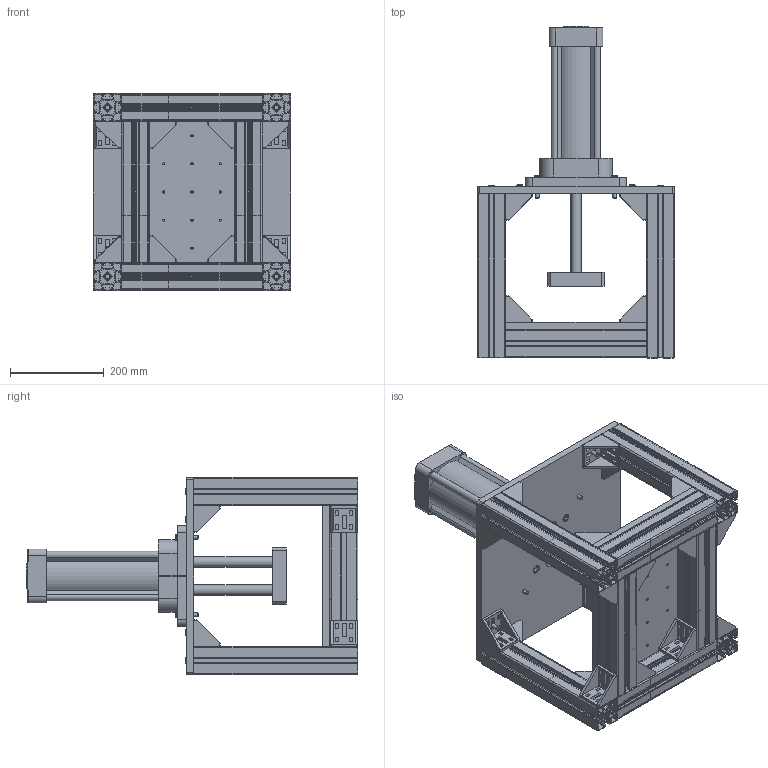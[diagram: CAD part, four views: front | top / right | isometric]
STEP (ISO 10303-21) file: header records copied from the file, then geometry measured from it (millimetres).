
FILE_DESCRIPTION(/* description */ (''),/* implementation_level */ '2;1');
FILE_NAME(/* name */ 'pressa.stp',/* time_stamp */ '2024-10-03T15:52:14+02:00',/* author */ ('Ryzen5700u'),/* organization */ (''),/* preprocessor_version */ 'ST-DEVELOPER v20',/* originating_system */ 'Autodesk Inventor 2025',/* authorisation */ '');
FILE_SCHEMA (('AUTOMOTIVE_DESIGN { 1 0 10303 214 3 1 1 }'));
Products named in the file (26): base; bosch 60x60-300mm; piatto-10mm; bosch 60x60-45'0mm; bosch 60x60-350mm; Rexroth-$PARTNUMBER_1_MIR; bosch 60x60-45'0mm_MIR; Rexroth-$PARTNUMBER.1; piatto_cilindro; W1401000200/0-1-0-0-0; Left head 100; Barrel 100200; Right head 1000; Piston rod 1002000; pressa; Rexroth-$PARTNUMBER_1_MIR2_MIR1; Rexroth-$PARTNUMBER_1_MIR2; Rexroth-$PARTNUMBER_1_MIR2_MIR2; Rexroth-$PARTNUMBER_1_MIR2_MIR3; Rexroth-$PARTNUMBER_1_MIR2_MIR2_MIR; blocco-cilindro-piano; blocco-cilindro-piano_MIR; AS 1420 - 1973 - M8 x 30; Rexroth-$PARTNUMBER_1_MIR3; AS 1420 - 1973 - M10 x 30; AS 1420 - 1973 - M8 x 40
Assembly tree (51 placements, depth 3):
  base
    bosch 60x60-300mm  x4
    Rexroth-$PARTNUMBER.1  x8
    piatto-10mm
    bosch 60x60-350mm
    Rexroth-$PARTNUMBER_1_MIR  x2
    piatto_cilindro
    Rexroth-$PARTNUMBER_1_MIR2  x3
    W1401000200/0-1-0-0-0
      Left head 100
      Barrel 100200
      Right head 1000
      Piston rod 1002000
    pressa
    Rexroth-$PARTNUMBER_1_MIR2_MIR1  x2
    Rexroth-$PARTNUMBER_1_MIR2_MIR2
    Rexroth-$PARTNUMBER_1_MIR2_MIR3
    Rexroth-$PARTNUMBER_1_MIR2_MIR2_MIR
    blocco-cilindro-piano
    blocco-cilindro-piano_MIR
    AS 1420 - 1973 - M8 x 30  x8
    Rexroth-$PARTNUMBER_1_MIR3  x2
    AS 1420 - 1973 - M10 x 30  x4
    AS 1420 - 1973 - M8 x 40  x4
  bosch 60x60-45'0mm
  bosch 60x60-45'0mm_MIR
Bounding box: 420 x 707 x 420 mm (x, y, z)
Volume: 11485729.6 mm3; surface area: 4193069.2 mm2
Topology: 53 solids, 53 shells, 5157 faces, 14661 edges, 9726 vertices
Faces by surface type: plane 2892, cylinder 2157, cone 76, torus 32
Full cylindrical faces by diameter (mm): 4.917 x35, 8 x12, 8.376 x8, 8.5 x2, 9 x16, 10 x4, 10.106 x2, 11 x6, 12 x35, 13 x12, 15 x12, 16 x12, 16.5 x4, 18 x10, 18.631 x2, 22 x6, 27 x2, 55 x1, 100 x4
Entity records: 86854 total; most frequent: CARTESIAN_POINT 15049, DIRECTION 14877, ORIENTED_EDGE 14740, EDGE_CURVE 7370, LINE 5227, VECTOR 5227, VERTEX_POINT 4886, AXIS2_PLACEMENT_3D 4825
